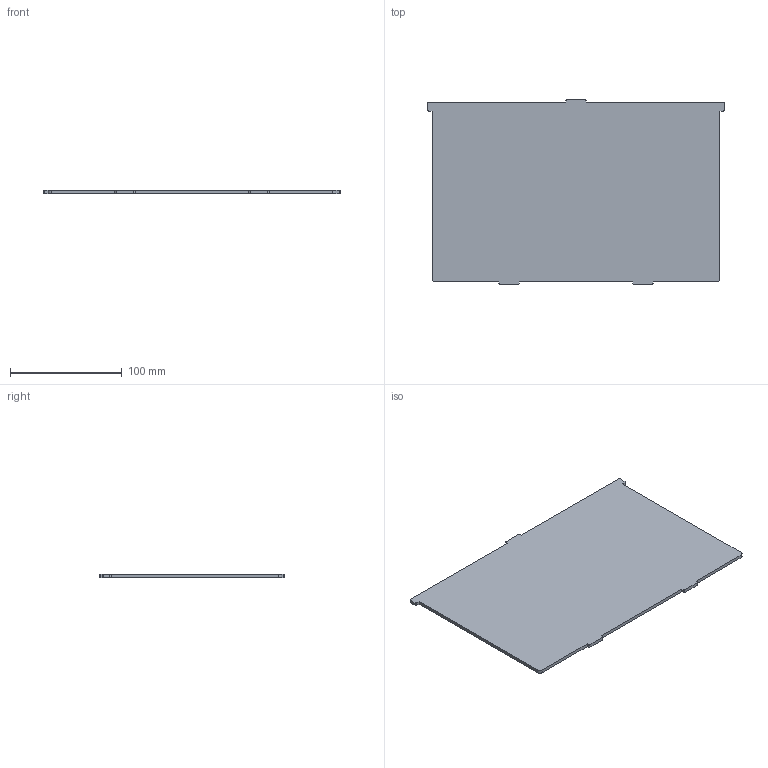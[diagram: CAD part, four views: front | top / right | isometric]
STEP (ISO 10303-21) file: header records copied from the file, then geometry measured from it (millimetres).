
FILE_DESCRIPTION((''),'2;1');
FILE_NAME('288092','2022-12-13T13:41:18',('vmorco'),(''),'CREO PARAMETRIC BY PTC INC, 2020454','CREO PARAMETRIC BY PTC INC, 2020454','');
FILE_SCHEMA(('AUTOMOTIVE_DESIGN { 1 0 10303 214 1 1 1 1 }'));
Length unit declared in the file: millimetre
Products named in the file (1): 288092
Bounding box: 266 x 166 x 3 mm (x, y, z)
Volume: 125193 mm3; surface area: 86048.4 mm2
Topology: 1 solids, 1 shells, 34 faces, 96 edges, 64 vertices
Faces by surface type: plane 22, cylinder 12
Entity records: 1175 total; most frequent: CARTESIAN_POINT 196, ORIENTED_EDGE 192, DIRECTION 188, EDGE_CURVE 96, VECTOR 72, LINE 72, VERTEX_POINT 64, AXIS2_PLACEMENT_3D 58
